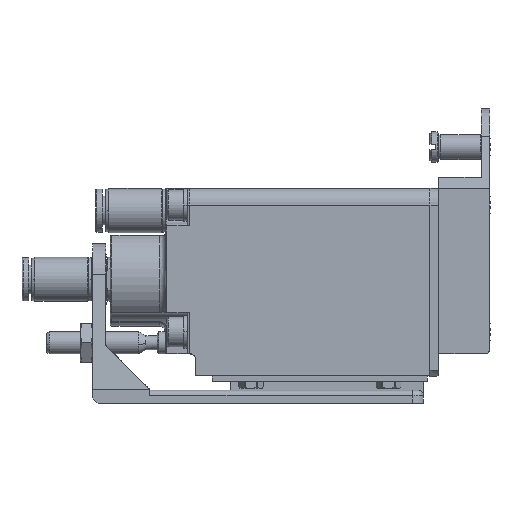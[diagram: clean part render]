
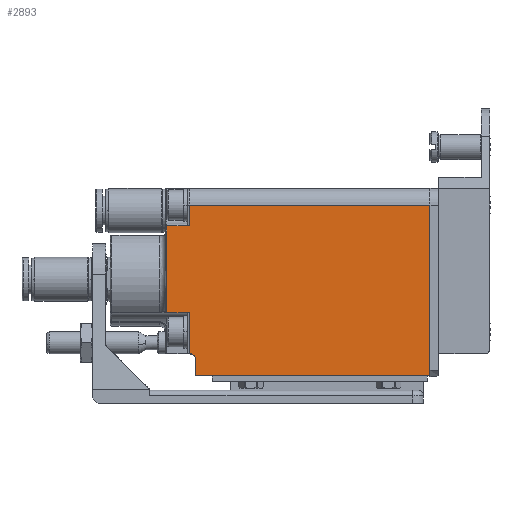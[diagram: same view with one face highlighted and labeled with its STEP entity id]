
A CAD part, left-side view. The second image highlights one B-rep face of the part: STEP entity #2893.
In plain terms, the highlighted planar face has unit normal (-1, 0, 0).
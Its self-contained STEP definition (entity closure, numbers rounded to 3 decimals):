
#541 = DIRECTION ( 'NONE',  ( 0., 1., 0. ) ) ;
#612 = CARTESIAN_POINT ( 'NONE',  ( -9.5, 43.7, -8. ) ) ;
#626 = CARTESIAN_POINT ( 'NONE',  ( -9.5, 47.7, -0.083 ) ) ;
#1715 = LINE ( 'NONE', #31059, #26407 ) ;
#1991 = ORIENTED_EDGE ( 'NONE', *, *, #26927, .T. ) ;
#2207 = VECTOR ( 'NONE', #18544, 1000. ) ;
#2218 = VERTEX_POINT ( 'NONE', #13639 ) ;
#2893 = ADVANCED_FACE ( 'NONE', ( #10435 ), #36110, .T. ) ;
#4109 = ORIENTED_EDGE ( 'NONE', *, *, #40009, .T. ) ;
#4261 = CARTESIAN_POINT ( 'NONE',  ( -9.5, 47.7, -4. ) ) ;
#4635 = ORIENTED_EDGE ( 'NONE', *, *, #14411, .T. ) ;
#6697 = LINE ( 'NONE', #17442, #13939 ) ;
#6739 = LINE ( 'NONE', #21317, #32355 ) ;
#6961 = CARTESIAN_POINT ( 'NONE',  ( -9.5, 43.5, -16.5 ) ) ;
#7340 = DIRECTION ( 'NONE',  ( 0., 0., -1. ) ) ;
#7461 = VERTEX_POINT ( 'NONE', #22211 ) ;
#7785 = AXIS2_PLACEMENT_3D ( 'NONE', #11527, #33138, #14649 ) ;
#9045 = LINE ( 'NONE', #12007, #33704 ) ;
#9102 = CARTESIAN_POINT ( 'NONE',  ( -9.5, 0., -4. ) ) ;
#9490 = B_SPLINE_CURVE_WITH_KNOTS ( 'NONE', 3,
 ( #9812, #34527, #16024, #37628, #19137, #626, #22238 ),
 .UNSPECIFIED., .F., .F.,
 ( 4, 1, 1, 1, 4 ),
 ( 0., 0.286, 0.571, 0.714, 1. ),
 .UNSPECIFIED. ) ;
#9812 = CARTESIAN_POINT ( 'NONE',  ( -9.5, 47.7, -4.369 ) ) ;
#9857 = AXIS2_PLACEMENT_3D ( 'NONE', #6961, #28591, #10085 ) ;
#10001 = ORIENTED_EDGE ( 'NONE', *, *, #16945, .T. ) ;
#10085 = DIRECTION ( 'NONE',  ( 0., 0., -1. ) ) ;
#10435 = FACE_OUTER_BOUND ( 'NONE', #20457, .T. ) ;
#10450 = LINE ( 'NONE', #9102, #2207 ) ;
#11309 = LINE ( 'NONE', #4261, #34003 ) ;
#11328 = DIRECTION ( 'NONE',  ( 0., -1., 0. ) ) ;
#11527 = CARTESIAN_POINT ( 'NONE',  ( -9.5, 39.226, -22.6 ) ) ;
#11669 = DIRECTION ( 'NONE',  ( 0., 0., -1. ) ) ;
#11898 = VERTEX_POINT ( 'NONE', #27323 ) ;
#12007 = CARTESIAN_POINT ( 'NONE',  ( -9.5, 45.86, -8. ) ) ;
#12091 = VECTOR ( 'NONE', #39361, 1000. ) ;
#12538 = DIRECTION ( 'NONE',  ( 0., 0., -1. ) ) ;
#12987 = LINE ( 'NONE', #17855, #35665 ) ;
#13148 = ORIENTED_EDGE ( 'NONE', *, *, #24126, .T. ) ;
#13262 = VERTEX_POINT ( 'NONE', #39159 ) ;
#13538 = VERTEX_POINT ( 'NONE', #22151 ) ;
#13639 = CARTESIAN_POINT ( 'NONE',  ( -9.5, 43.7, -15.5 ) ) ;
#13769 = EDGE_CURVE ( 'NONE', #22578, #13262, #9045, .T. ) ;
#13939 = VECTOR ( 'NONE', #20568, 1000. ) ;
#14319 = ORIENTED_EDGE ( 'NONE', *, *, #27522, .F. ) ;
#14411 = EDGE_CURVE ( 'NONE', #11898, #7461, #10450, .T. ) ;
#14563 = LINE ( 'NONE', #36037, #22793 ) ;
#14649 = DIRECTION ( 'NONE',  ( 0., 0., 1. ) ) ;
#15497 = ORIENTED_EDGE ( 'NONE', *, *, #37424, .F. ) ;
#16024 = CARTESIAN_POINT ( 'NONE',  ( -9.5, 47.728, -3.015 ) ) ;
#16278 = ORIENTED_EDGE ( 'NONE', *, *, #13769, .F. ) ;
#16788 = VERTEX_POINT ( 'NONE', #22834 ) ;
#16945 = EDGE_CURVE ( 'NONE', #31530, #11898, #14563, .T. ) ;
#17015 = DIRECTION ( 'NONE',  ( 0., 1., 0. ) ) ;
#17396 = EDGE_CURVE ( 'NONE', #30247, #31530, #35755, .T. ) ;
#17442 = CARTESIAN_POINT ( 'NONE',  ( -9.5, 43.87, 7.7 ) ) ;
#17855 = CARTESIAN_POINT ( 'NONE',  ( -9.5, 47.7, -4. ) ) ;
#17913 = CIRCLE ( 'NONE', #9857, 1. ) ;
#18544 = DIRECTION ( 'NONE',  ( 0., 0., 1. ) ) ;
#19046 = CARTESIAN_POINT ( 'NONE',  ( -9.5, 45.75, -15.5 ) ) ;
#19137 = CARTESIAN_POINT ( 'NONE',  ( -9.5, 47.72, -0.759 ) ) ;
#19628 = ORIENTED_EDGE ( 'NONE', *, *, #33333, .T. ) ;
#20202 = EDGE_CURVE ( 'NONE', #33863, #13538, #6697, .T. ) ;
#20228 = ORIENTED_EDGE ( 'NONE', *, *, #24765, .T. ) ;
#20457 = EDGE_LOOP ( 'NONE', ( #4109, #14319, #19628, #16278, #24717, #15497, #13148, #38879, #10001, #4635, #20228, #1991, #26313 ) ) ;
#20568 = DIRECTION ( 'NONE',  ( 0., 1., 0. ) ) ;
#20753 = LINE ( 'NONE', #35529, #37187 ) ;
#21178 = DIRECTION ( 'NONE',  ( 0., 1., 0. ) ) ;
#21317 = CARTESIAN_POINT ( 'NONE',  ( -9.5, 43.7, -4. ) ) ;
#21470 = VERTEX_POINT ( 'NONE', #34528 ) ;
#21663 = VERTEX_POINT ( 'NONE', #32483 ) ;
#22151 = CARTESIAN_POINT ( 'NONE',  ( -9.5, 47.7, 7.7 ) ) ;
#22211 = CARTESIAN_POINT ( 'NONE',  ( -9.5, 0., 11.5 ) ) ;
#22238 = CARTESIAN_POINT ( 'NONE',  ( -9.5, 47.7, 0.369 ) ) ;
#22578 = VERTEX_POINT ( 'NONE', #612 ) ;
#22793 = VECTOR ( 'NONE', #11328, 1000. ) ;
#22834 = CARTESIAN_POINT ( 'NONE',  ( -9.5, 43.7, 11.5 ) ) ;
#24126 = EDGE_CURVE ( 'NONE', #21663, #30247, #17913, .T. ) ;
#24437 = DIRECTION ( 'NONE',  ( 0., 0., -1. ) ) ;
#24717 = ORIENTED_EDGE ( 'NONE', *, *, #30825, .T. ) ;
#24765 = EDGE_CURVE ( 'NONE', #7461, #16788, #20753, .T. ) ;
#26288 = CARTESIAN_POINT ( 'NONE',  ( -9.5, 42.5, -19.5 ) ) ;
#26313 = ORIENTED_EDGE ( 'NONE', *, *, #20202, .T. ) ;
#26407 = VECTOR ( 'NONE', #12538, 1000. ) ;
#26927 = EDGE_CURVE ( 'NONE', #16788, #33863, #1715, .T. ) ;
#27323 = CARTESIAN_POINT ( 'NONE',  ( -9.5, 0., -19.5 ) ) ;
#27522 = EDGE_CURVE ( 'NONE', #28384, #21470, #9490, .T. ) ;
#27607 = CARTESIAN_POINT ( 'NONE',  ( -9.5, 42.5, -16.5 ) ) ;
#28384 = VERTEX_POINT ( 'NONE', #29164 ) ;
#28591 = DIRECTION ( 'NONE',  ( 1., 0., 0. ) ) ;
#29164 = CARTESIAN_POINT ( 'NONE',  ( -9.5, 47.7, -4.369 ) ) ;
#29658 = VECTOR ( 'NONE', #541, 1000. ) ;
#30247 = VERTEX_POINT ( 'NONE', #27607 ) ;
#30825 = EDGE_CURVE ( 'NONE', #22578, #2218, #6739, .T. ) ;
#31059 = CARTESIAN_POINT ( 'NONE',  ( -9.5, 43.7, -4. ) ) ;
#31530 = VERTEX_POINT ( 'NONE', #26288 ) ;
#32355 = VECTOR ( 'NONE', #24437, 1000. ) ;
#32483 = CARTESIAN_POINT ( 'NONE',  ( -9.5, 43.5, -15.5 ) ) ;
#33138 = DIRECTION ( 'NONE',  ( -1., 0., 0. ) ) ;
#33188 = CARTESIAN_POINT ( 'NONE',  ( -9.5, 43.7, 7.7 ) ) ;
#33271 = CARTESIAN_POINT ( 'NONE',  ( -9.5, 42.5, -4. ) ) ;
#33333 = EDGE_CURVE ( 'NONE', #28384, #13262, #12987, .T. ) ;
#33704 = VECTOR ( 'NONE', #21178, 1000. ) ;
#33863 = VERTEX_POINT ( 'NONE', #33188 ) ;
#34003 = VECTOR ( 'NONE', #7340, 1000. ) ;
#34527 = CARTESIAN_POINT ( 'NONE',  ( -9.5, 47.7, -3.917 ) ) ;
#34528 = CARTESIAN_POINT ( 'NONE',  ( -9.5, 47.7, 0.369 ) ) ;
#35529 = CARTESIAN_POINT ( 'NONE',  ( -9.5, 43.87, 11.5 ) ) ;
#35665 = VECTOR ( 'NONE', #11669, 1000. ) ;
#35755 = LINE ( 'NONE', #33271, #12091 ) ;
#36037 = CARTESIAN_POINT ( 'NONE',  ( -9.5, 43.87, -19.5 ) ) ;
#36110 = PLANE ( 'NONE',  #7785 ) ;
#37187 = VECTOR ( 'NONE', #17015, 1000. ) ;
#37424 = EDGE_CURVE ( 'NONE', #21663, #2218, #38831, .T. ) ;
#37628 = CARTESIAN_POINT ( 'NONE',  ( -9.5, 47.74, -1.887 ) ) ;
#38831 = LINE ( 'NONE', #19046, #29658 ) ;
#38879 = ORIENTED_EDGE ( 'NONE', *, *, #17396, .T. ) ;
#39159 = CARTESIAN_POINT ( 'NONE',  ( -9.5, 47.7, -8. ) ) ;
#39361 = DIRECTION ( 'NONE',  ( 0., 0., -1. ) ) ;
#40009 = EDGE_CURVE ( 'NONE', #13538, #21470, #11309, .T. ) ;
